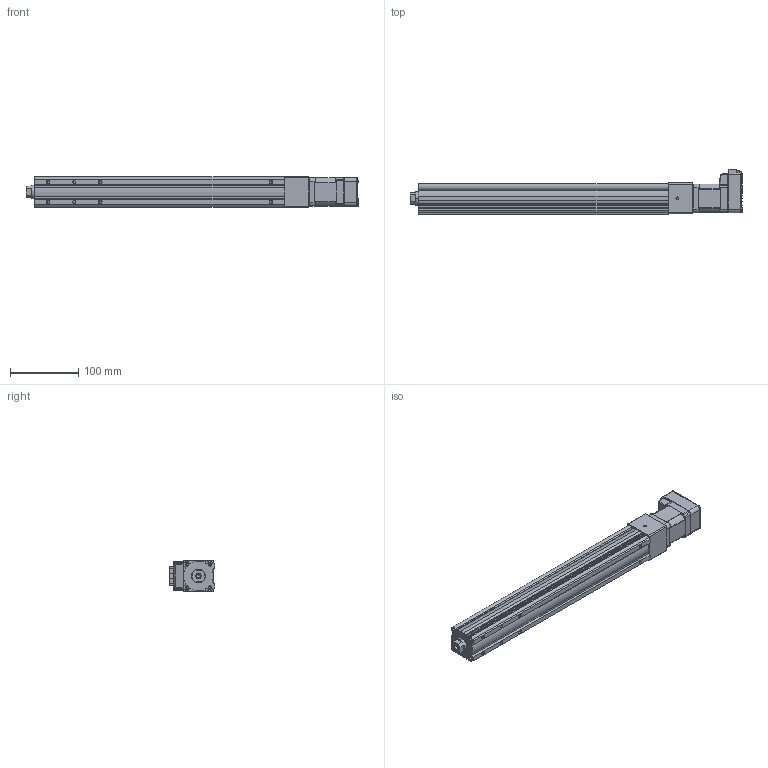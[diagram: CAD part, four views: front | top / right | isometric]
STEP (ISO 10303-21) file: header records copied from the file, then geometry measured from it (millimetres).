
FILE_DESCRIPTION (( 'STEP AP214' ), '1' );
FILE_NAME ('LEY3(+)-25DNM1□-250-17L.STEP', '2023-04-06T06:38:11', ( '' ), ( '' ), 'SwSTEP 2.0', 'SolidWorks 2019', '' );
FILE_SCHEMA (( 'AUTOMOTIVE_DESIGN' ));
Length unit declared in the file: millimetre
Products named in the file (5): CM3(+)-17L50A; LEY3(+)-25DNM1_MOTOR Flange; LEY3(+)-25DNM1□-250-17L; LEY3(+)-25NM1?_BODY_250; LEY3(+)-25NM1?_ROD_250
Assembly tree (4 placements, depth 2):
  LEY3(+)-25DNM1□-250-17L
    LEY3(+)-25NM1?_BODY_250
    LEY3(+)-25NM1?_ROD_250
    LEY3(+)-25DNM1_MOTOR Flange
    CM3(+)-17L50A
Bounding box: 484.8 x 66.75 x 45 mm (x, y, z)
Volume: 799279.6 mm3; surface area: 156242.7 mm2
Topology: 4 solids, 4 shells, 878 faces, 2218 edges, 1385 vertices
Faces by surface type: plane 460, cylinder 245, cone 94, bspline 29, torus 29, sphere 21
Full cylindrical faces by diameter (mm): 2.5 x4, 3.5 x4, 4 x1, 4.2 x6, 5 x1, 8 x1, 11 x1, 22 x1, 33 x1
Entity records: 36750 total; most frequent: CARTESIAN_POINT 6496, ORIENTED_EDGE 4284, DIRECTION 4139, EDGE_CURVE 2142, AXIS2_PLACEMENT_3D 1383, VERTEX_POINT 1375, VECTOR 1373, LINE 1373
